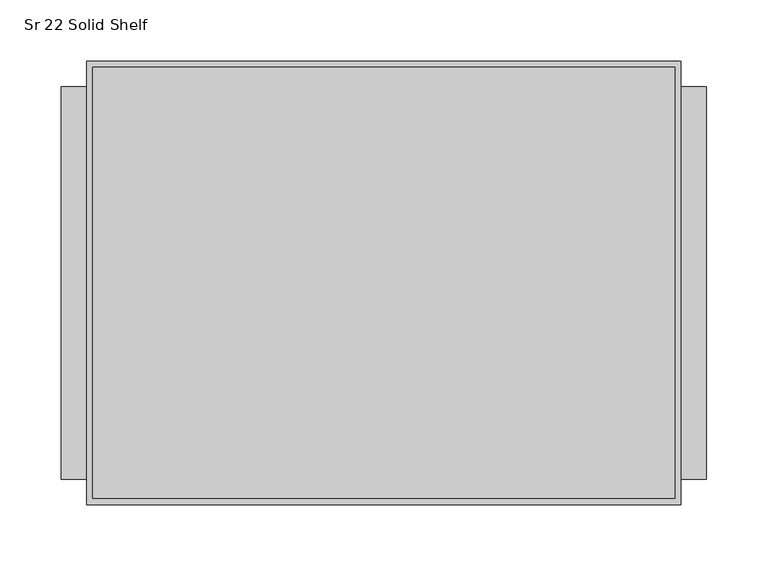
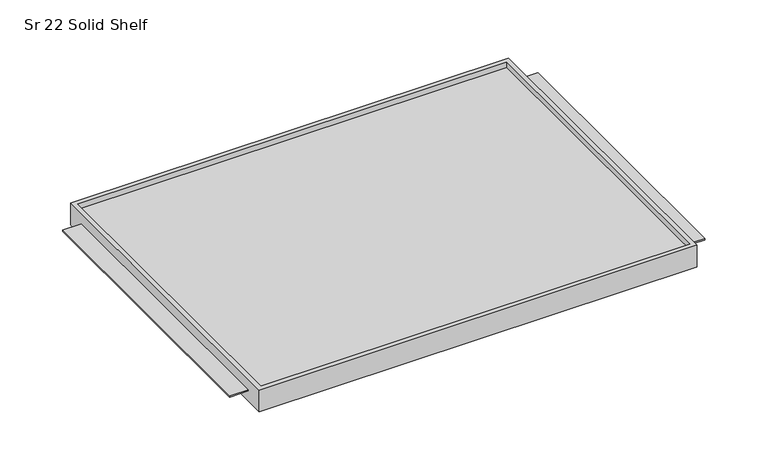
"""IFC4 building model written with IfcOpenShell, lengths in millimetres: furniture geometry, HermanMiller_Carts_CT521_CartShelf : Sr 22 Solid Shelf."""

from ifc_helpers import new_model, si_unit, frame, origin, place, context, project, spatial, polyline, outline, extrude, faceted_brep, source, transform, mapped, element, save


def sr_22_solid_shelf_8c147d3a(model_context):
    return source(origin(), model_context, "Body", "SolidModel", [
        extrude(outline(polyline([(-299.9701517, -185.7375), (-320.6076517, -185.7375), (-320.6076517, 134.9375), (-299.9701517, 134.9375), (-299.9701517, -185.7375)])), frame((0.0, 0.0, 2543.96875), z_axis=(0.0, 0.0, 1.0), x_axis=(1.0, 0.0, 0.0)), (0.0, 0.0, 1.0), 1.5875),
        extrude(outline(polyline([(206.4423483, 134.9375), (206.4423483, -185.7375), (180.7248483, -185.7375), (180.7248483, 134.9375), (206.4423483, 134.9375)])), frame((0.0, 0.0, 2543.96875), z_axis=(0.0, 0.0, 1.0), x_axis=(1.0, 0.0, 0.0)), (0.0, 0.0, 1.0), 1.5875),
        faceted_brep([(185.8048483, -206.375, 2557.4625), (-299.9701517, -206.375, 2557.4625), (-299.9701517, -206.375, 2532.0625), (185.8048483, -206.375, 2532.0625), (185.8048483, 155.575, 2557.4625), (185.8048483, 155.575, 2532.0625), (-299.9701517, 155.575, 2532.0625), (-299.9701517, 155.575, 2557.4625), (-294.8901517, 150.495, 2557.4625), (180.7248483, 150.495, 2557.4625), (180.7248483, -201.295, 2557.4625), (-294.8901517, -201.295, 2557.4625), (180.7248483, 150.495, 2551.1125), (-294.8901517, 150.495, 2551.1125), (-294.8901517, -201.295, 2551.1125), (180.7248483, -201.295, 2551.1125)], [[[0, 1, 2, 3]], [[4, 5, 6, 7]], [[1, 0, 4, 7], [8, 9, 10, 11]], [[2, 1, 7, 6]], [[3, 2, 6, 5]], [[0, 3, 5, 4]], [[12, 13, 14, 15]], [[13, 12, 9, 8]], [[14, 13, 8, 11]], [[15, 14, 11, 10]], [[12, 15, 10, 9]]]),
    ])


if __name__ == "__main__":
    model = new_model("IFC4")
    model_context = context("Model", 3, world=origin())
    ifc_project = project(units=[si_unit("LENGTHUNIT", "METRE", prefix="MILLI")], contexts=[model_context])
    site = spatial("IfcSite", under=ifc_project)
    building = spatial("IfcBuilding", under=site)
    placement = place(None, origin())
    sr_22_solid_shelf_shape = sr_22_solid_shelf_8c147d3a(model_context)
    element("IfcFurniture", 1, ObjectType="HermanMiller_Carts_CT521_CartShelf : Sr 22 Solid Shelf", at=placement, inside=building, context=model_context, shape_type="MappedRepresentation", body=[
        mapped(sr_22_solid_shelf_shape, transform((0.0, 0.0, 0.0), x_axis=(1.0, 0.0, 0.0), y_axis=(0.0, 1.0, 0.0), z_axis=(0.0, 0.0, 1.0))),
    ])
    save(model, "model.ifc")
